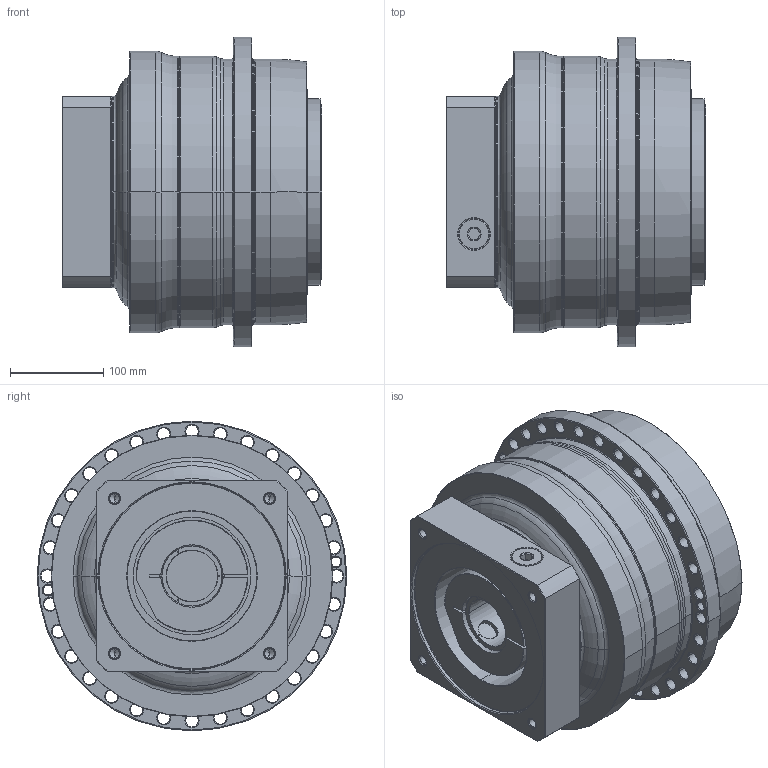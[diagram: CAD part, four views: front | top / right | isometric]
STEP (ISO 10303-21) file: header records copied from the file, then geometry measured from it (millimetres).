
FILE_DESCRIPTION((''),'2;1');
FILE_NAME('AP285_1ST_55-P0409C00201_ASM','2018-05-28T',('d01226'),(''),'PRO/ENGINEER BY PARAMETRIC TECHNOLOGY CORPORATION, 2008410','PRO/ENGINEER BY PARAMETRIC TECHNOLOGY CORPORATION, 2008410','');
FILE_SCHEMA(('CONFIG_CONTROL_DESIGN'));
Length unit declared in the file: millimetre
Products named in the file (9): P0278801003; P0359801103; P1318810401; P0503C00016; P0912804001; P1211800002; P0409C00201; 21711426021; AP285_1ST_55-P0409C00201_ASM
Assembly tree (8 placements, depth 2):
  AP285_1ST_55-P0409C00201_ASM
    P0278801003
    P0359801103
    P1318810401
    P0503C00016
    P0912804001
    P1211800002
    P0409C00201
    21711426021
Bounding box: 278.5 x 332 x 332 mm (x, y, z)
Volume: 14154827.3 mm3; surface area: 997441.5 mm2
Topology: 9 solids, 32 shells, 681 faces, 1573 edges, 956 vertices
Faces by surface type: cylinder 270, cone 218, plane 101, torus 78, bspline 14
Entity records: 24295 total; most frequent: CARTESIAN_POINT 7960, DIRECTION 3771, ORIENTED_EDGE 3036, AXIS2_PLACEMENT_3D 1609, EDGE_CURVE 1565, VERTEX_POINT 956, CIRCLE 913, EDGE_LOOP 843
